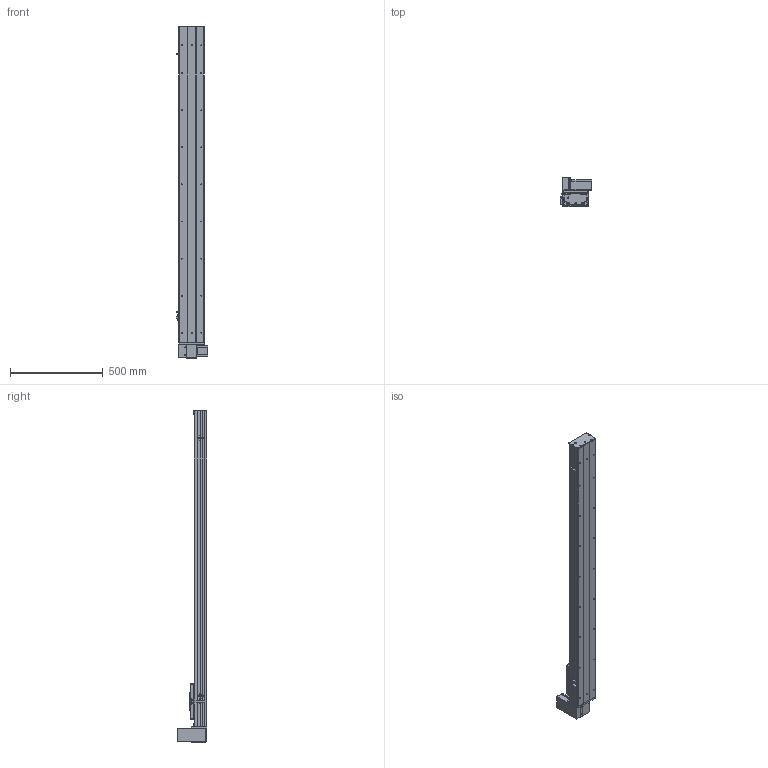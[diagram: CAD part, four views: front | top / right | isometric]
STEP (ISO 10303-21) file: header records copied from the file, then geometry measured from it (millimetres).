
FILE_DESCRIPTION (( 'STEP AP203' ), '1' );
FILE_NAME ('Y135CB-D90-S1400-UR-P400W.STEP', '2020-02-18T04:13:32', ( '微软用户' ), ( '微软中国' ), 'SwSTEP 2.0', 'SolidWorks 2017', '' );
FILE_SCHEMA (( 'CONFIG_CONTROL_DESIGN' ));
Length unit declared in the file: millimetre
Products named in the file (18): C-雄赽釱--; 0B-萇儂楊擘啣; Y10B--々湍喘謫眊--666; san松下电机400不带刹车----; Y10B-耜蚾蟀諉啣----; 5CB --掛极耜裔啣-; 00B-俋欶BM--; C-詩湍揤踡え-陔; Y135CB-耜裔; Y135CB-D90-S1400-UR-P400W; 135CB--詩湍-CE; 135CB---遴掛极.-; Y100-135俋离換覜ん--; 35CB---喘謫眊楊擘啣; Y135C-陔俋离換覜結え-; 0B-埴倛裔啣; 5C--俋欶; 0B-源倛裔啣
Assembly tree (21 placements, depth 2):
  Y135CB-D90-S1400-UR-P400W
    Y135CB-耜裔
    135CB---遴掛极.-
    35CB---喘謫眊楊擘啣
    0B-埴倛裔啣
    0B-源倛裔啣
    0B-萇儂楊擘啣
    san松下电机400不带刹车----
    5CB --掛极耜裔啣-  x2
    C-詩湍揤踡え-陔  x2
    135CB--詩湍-CE
    Y100-135俋离換覜ん--  x3
    Y135C-陔俋离換覜結え-
    5C--俋欶
    C-雄赽釱--
    Y10B--々湍喘謫眊--666
    Y10B-耜蚾蟀諉啣----
    00B-俋欶BM--
Bounding box: 167.5 x 158.7 x 1788 mm (x, y, z)
Volume: 5425217.2 mm3; surface area: 2133228.9 mm2
Topology: 21 solids, 21 shells, 953 faces, 2563 edges, 1698 vertices
Faces by surface type: cylinder 481, plane 456, cone 16
Entity records: 29753 total; most frequent: DIRECTION 4943, CARTESIAN_POINT 4900, ORIENTED_EDGE 4602, EDGE_CURVE 2301, AXIS2_PLACEMENT_3D 1805, VERTEX_POINT 1526, VECTOR 1333, LINE 1333
